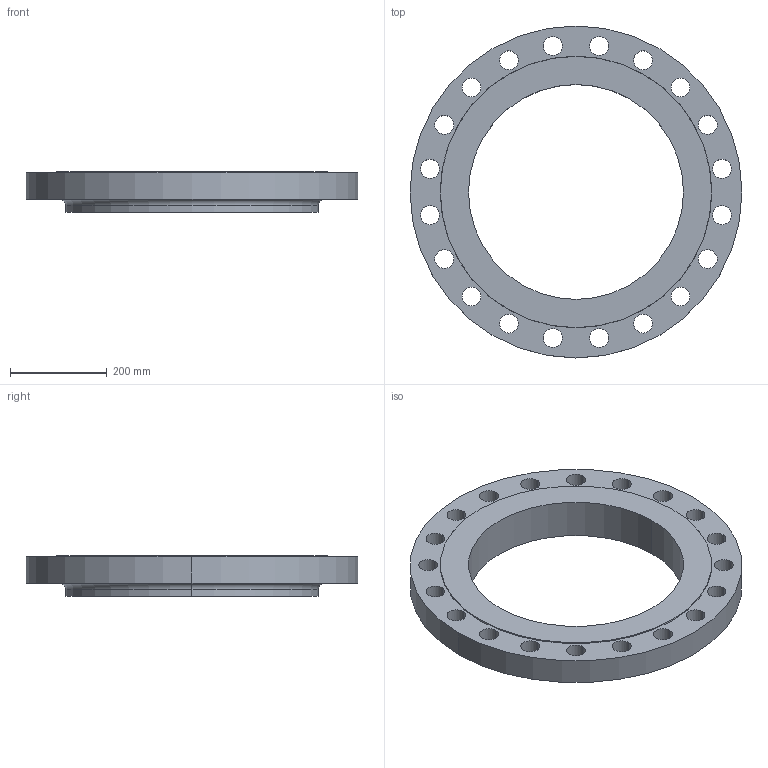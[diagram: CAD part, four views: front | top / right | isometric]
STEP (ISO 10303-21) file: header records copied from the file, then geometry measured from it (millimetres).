
FILE_DESCRIPTION (( 'STEP AP214' ), '1' );
FILE_NAME ('PN40 DN450 Type 13 - Type B Face.STEP', '2018-12-29T02:31:56', ( '' ), ( '' ), 'SwSTEP 2.0', 'SolidWorks 2019', '' );
FILE_SCHEMA (( 'AUTOMOTIVE_DESIGN' ));
Length unit declared in the file: millimetre
Products named in the file (1): PN40 DN450 Type 13 - Type B Face
Bounding box: 685 x 685 x 84 mm (x, y, z)
Volume: 12300905.4 mm3; surface area: 789324.6 mm2
Topology: 1 solids, 1 shells, 54 faces, 148 edges, 98 vertices
Faces by surface type: cylinder 46, plane 4, torus 2, cone 2
Entity records: 1894 total; most frequent: DIRECTION 358, CARTESIAN_POINT 301, ORIENTED_EDGE 296, AXIS2_PLACEMENT_3D 155, EDGE_CURVE 148, CIRCLE 100, VERTEX_POINT 98, EDGE_LOOP 98
